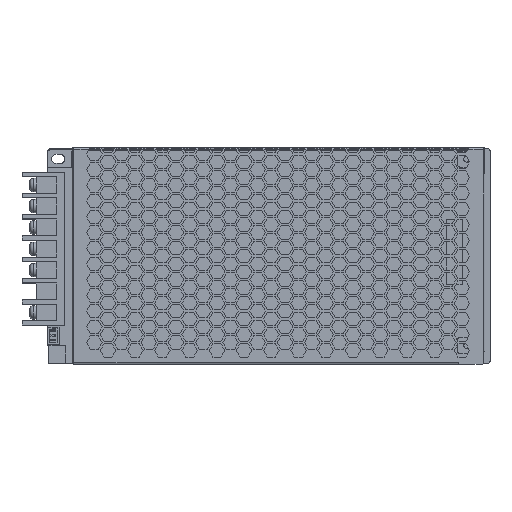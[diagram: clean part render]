
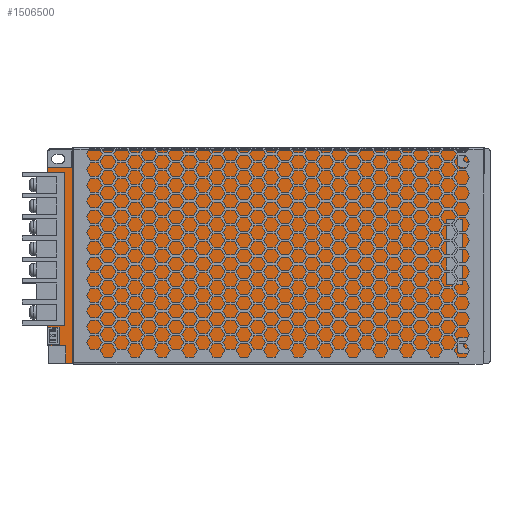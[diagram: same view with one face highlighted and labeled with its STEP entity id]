
A CAD part, top view. The second image highlights one B-rep face of the part: STEP entity #1506500.
In plain terms, the highlighted planar face has unit normal (0, 0, 1).
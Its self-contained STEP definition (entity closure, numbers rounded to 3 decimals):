
#1503940=CARTESIAN_POINT('',(-227.604,204.625,0.));
#1503950=DIRECTION('',(-1.,0.,0.));
#1503960=VECTOR('',#1503950,1.);
#1503970=LINE('',#1503940,#1503960);
#1503980=CARTESIAN_POINT('',(-227.604,204.625,-0.));
#1503990=VERTEX_POINT('',#1503980);
#1504000=CARTESIAN_POINT('',(-321.667,204.625,0.));
#1504010=VERTEX_POINT('',#1504000);
#1504020=EDGE_CURVE('',#1503990,#1504010,#1503970,.T.);
#1504460=CARTESIAN_POINT('',(-321.667,212.625,-0.));
#1504470=VERTEX_POINT('',#1504460);
#1504500=CARTESIAN_POINT('',(-321.667,204.625,0.));
#1504510=DIRECTION('',(0.,1.,0.));
#1504520=VECTOR('',#1504510,1.);
#1504530=LINE('',#1504500,#1504520);
#1504540=EDGE_CURVE('',#1504010,#1504470,#1504530,.T.);
#1505530=CARTESIAN_POINT('',(-227.604,204.625,0.));
#1505540=DIRECTION('',(0.,1.,0.));
#1505550=VECTOR('',#1505540,1.);
#1505560=LINE('',#1505530,#1505550);
#1505570=CARTESIAN_POINT('',(-227.604,205.625,0.));
#1505580=VERTEX_POINT('',#1505570);
#1505590=EDGE_CURVE('',#1503990,#1505580,#1505560,.T.);
#1505710=CARTESIAN_POINT('',(-0.,-0.,-0.));
#1505720=DIRECTION('',(-0.,-0.,1.));
#1505730=DIRECTION('',(1.,0.,-0.));
#1505740=AXIS2_PLACEMENT_3D('',#1505710,#1505720,#1505730);
#1505750=PLANE('',#1505740);
#1505760=CARTESIAN_POINT('',(-149.167,205.625,0.));
#1505770=DIRECTION('',(0.,-1.,0.));
#1505780=VECTOR('',#1505770,1.);
#1505790=LINE('',#1505760,#1505780);
#1505800=CARTESIAN_POINT('',(-149.167,205.625,0.));
#1505810=VERTEX_POINT('',#1505800);
#1505820=CARTESIAN_POINT('',(-149.167,204.625,-0.));
#1505830=VERTEX_POINT('',#1505820);
#1505840=EDGE_CURVE('',#1505810,#1505830,#1505790,.T.);
#1505850=ORIENTED_EDGE('',*,*,#1505840,.T.);
#1505860=CARTESIAN_POINT('',(-227.604,205.625,0.));
#1505870=DIRECTION('',(1.,0.,0.));
#1505880=VECTOR('',#1505870,1.);
#1505890=LINE('',#1505860,#1505880);
#1505900=EDGE_CURVE('',#1505580,#1505810,#1505890,.T.);
#1505910=ORIENTED_EDGE('',*,*,#1505900,.T.);
#1505920=ORIENTED_EDGE('',*,*,#1505590,.T.);
#1505930=ORIENTED_EDGE('',*,*,#1504020,.F.);
#1505940=ORIENTED_EDGE('',*,*,#1504540,.F.);
#1505950=CARTESIAN_POINT('',(-321.667,212.625,0.));
#1505960=DIRECTION('',(-1.,0.,0.));
#1505970=VECTOR('',#1505960,1.);
#1505980=LINE('',#1505950,#1505970);
#1505990=CARTESIAN_POINT('',(-329.667,212.625,0.));
#1506000=VERTEX_POINT('',#1505990);
#1506010=EDGE_CURVE('',#1504470,#1506000,#1505980,.T.);
#1506020=ORIENTED_EDGE('',*,*,#1506010,.F.);
#1506030=CARTESIAN_POINT('',(-329.667,212.625,0.));
#1506040=DIRECTION('',(0.,1.,0.));
#1506050=VECTOR('',#1506040,1.);
#1506060=LINE('',#1506030,#1506050);
#1506070=CARTESIAN_POINT('',(-329.667,299.625,0.));
#1506080=VERTEX_POINT('',#1506070);
#1506090=EDGE_CURVE('',#1506000,#1506080,#1506060,.T.);
#1506100=ORIENTED_EDGE('',*,*,#1506090,.F.);
#1506110=CARTESIAN_POINT('',(-329.667,299.625,0.));
#1506120=DIRECTION('',(1.,0.,0.));
#1506130=VECTOR('',#1506120,1.);
#1506140=LINE('',#1506110,#1506130);
#1506150=CARTESIAN_POINT('',(-135.667,299.625,-0.));
#1506160=VERTEX_POINT('',#1506150);
#1506170=EDGE_CURVE('',#1506080,#1506160,#1506140,.T.);
#1506180=ORIENTED_EDGE('',*,*,#1506170,.F.);
#1506190=CARTESIAN_POINT('',(-135.667,299.625,0.));
#1506200=DIRECTION('',(0.,-1.,0.));
#1506210=VECTOR('',#1506200,1.);
#1506220=LINE('',#1506190,#1506210);
#1506230=CARTESIAN_POINT('',(-135.667,204.625,0.));
#1506240=VERTEX_POINT('',#1506230);
#1506250=EDGE_CURVE('',#1506160,#1506240,#1506220,.T.);
#1506260=ORIENTED_EDGE('',*,*,#1506250,.F.);
#1506270=CARTESIAN_POINT('',(-135.667,204.625,0.));
#1506280=DIRECTION('',(-1.,0.,0.));
#1506290=VECTOR('',#1506280,1.);
#1506300=LINE('',#1506270,#1506290);
#1506310=EDGE_CURVE('',#1506240,#1505830,#1506300,.T.);
#1506320=ORIENTED_EDGE('',*,*,#1506310,.F.);
#1506330=EDGE_LOOP('',(#1506320,#1506260,#1506180,#1506100,#1506020,
#1505940,#1505930,#1505920,#1505910,#1505850));
#1506340=FACE_OUTER_BOUND('',#1506330,.T.);
#1506350=CARTESIAN_POINT('',(-325.167,296.125,
0.));
#1506360=DIRECTION('',(0.,0.,-1.));
#1506370=DIRECTION('',(1.,0.,0.));
#1506380=AXIS2_PLACEMENT_3D('',#1506350,#1506360,#1506370);
#1506390=CIRCLE('',#1506380,3.);
#1506400=CARTESIAN_POINT('',(-322.167,296.125,
0.));
#1506410=VERTEX_POINT('',#1506400);
#1506420=CARTESIAN_POINT('',(-328.167,296.125,
0.));
#1506430=VERTEX_POINT('',#1506420);
#1506440=EDGE_CURVE('',#1506410,#1506430,#1506390,.T.);
#1506450=ORIENTED_EDGE('',*,*,#1506440,.T.);
#1506460=EDGE_CURVE('',#1506430,#1506410,#1506390,.T.);
#1506470=ORIENTED_EDGE('',*,*,#1506460,.T.);
#1506480=EDGE_LOOP('',(#1506470,#1506450));
#1506490=FACE_BOUND('',#1506480,.T.);
#1506500=ADVANCED_FACE('',(#1506340,#1506490),#1505750,.T.);
